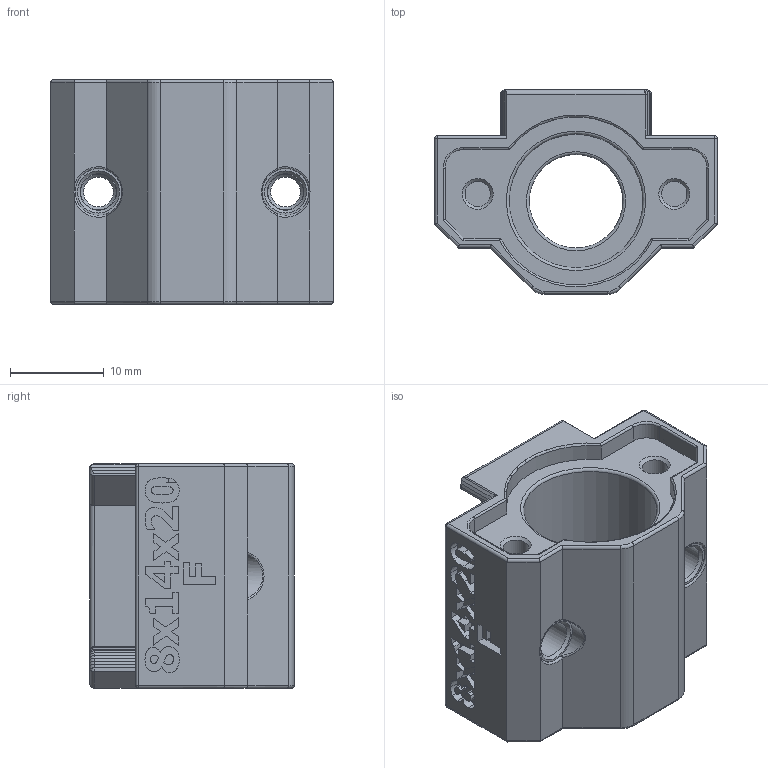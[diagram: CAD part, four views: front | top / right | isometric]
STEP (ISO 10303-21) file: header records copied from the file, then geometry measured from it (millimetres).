
FILE_DESCRIPTION(/* description */ ('3D-Druck'),/* implementation_level */ '2;1');
FILE_NAME(/* name */ '\\7800MBZ-PC\Maschinenbau-Projekte\Prusa_MK3_CAD\Linearlager\Linearlager-Sinterbuchsen-MK3-Y-Achse\Export_Step\Caspar_Sinterbuchsen_8x14x20_MK3\PrusaMods_Y-Axis_Bearing_Holder_RJ4JP_+0.30_Festlager.stp',/* time_stamp */ '2023-04-10T17:44:28+02:00',/* author */ ('KHG'),/* organization */ (''),/* preprocessor_version */ 'ST-DEVELOPER v18.1',/* originating_system */ 'Autodesk Inventor 2020',/* authorisation */ 'Unknown');
FILE_SCHEMA (('AUTOMOTIVE_DESIGN { 1 0 10303 214 3 1 1 }'));
Length unit declared in the file: millimetre
Products named in the file (1): PrusaMods_Y-Axis_Bearing_Holder_RJ4JP_+0.30_Festlager
Bounding box: 30.2 x 21.86 x 24 mm (x, y, z)
Volume: 6952.5 mm3; surface area: 4798.2 mm2
Topology: 1 solids, 1 shells, 432 faces, 1117 edges, 717 vertices
Faces by surface type: plane 228, bspline 94, cylinder 85, torus 13, cone 8, sphere 4
Full cylindrical faces by diameter (mm): 2.7 x2, 3.2 x2, 3.9 x2, 5 x2, 10 x1, 14.3 x1
Entity records: 13831 total; most frequent: CARTESIAN_POINT 3784, ORIENTED_EDGE 2234, DIRECTION 1759, EDGE_CURVE 1117, LINE 757, VECTOR 757, VERTEX_POINT 717, AXIS2_PLACEMENT_3D 501
